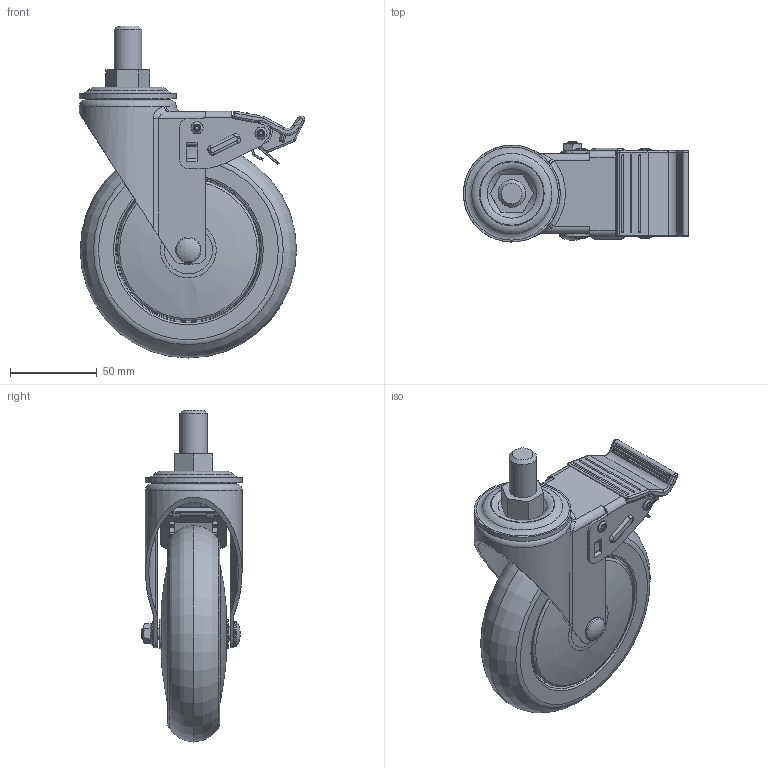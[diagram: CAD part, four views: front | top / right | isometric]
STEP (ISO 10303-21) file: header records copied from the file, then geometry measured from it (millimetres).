
FILE_DESCRIPTION(/* description */ (''),/* implementation_level */ '2;1');
FILE_NAME(/* name */ 'E:\홈피용도면\\X2\C2E0ADDCD648D398C774C9C0C6A9B3C4BA74\X0\\무소음캐스터\20160225-\X2\BB34C18CC74CCE90C2A4D130\X0\\GL-125-BSS.stp',/* time_stamp */ '2016-02-25T21:51:15+09:00',/* author */ ('장용하'),/* organization */ (''),/* preprocessor_version */ 'ST-DEVELOPER v15.6',/* originating_system */ 'Autodesk Inventor 2015',/* authorisation */ '');
FILE_SCHEMA (('AUTOMOTIVE_DESIGN { 1 0 10303 214 3 1 1 }'));
Length unit declared in the file: millimetre
Products named in the file (1): GL-125-BSS
Bounding box: 130.21 x 58 x 191.9 mm (x, y, z)
Volume: 328230.7 mm3; surface area: 120947.1 mm2
Topology: 3 solids, 3 shells, 745 faces, 1915 edges, 1208 vertices
Faces by surface type: cylinder 268, plane 256, torus 101, bspline 51, cone 41, sphere 28
Full cylindrical faces by diameter (mm): 5 x2, 5.2 x5, 6 x2, 6.2 x1, 7 x5, 8 x1, 11 x1, 11.2 x1, 14 x1, 14.6 x1, 15.875 x1, 22 x2, 24.645 x1, 41 x1, 56 x1
Entity records: 25069 total; most frequent: CARTESIAN_POINT 7244, DIRECTION 3878, ORIENTED_EDGE 3532, EDGE_CURVE 1766, AXIS2_PLACEMENT_3D 1548, VERTEX_POINT 1191, EDGE_LOOP 959, CIRCLE 787
